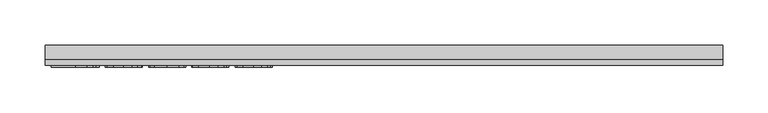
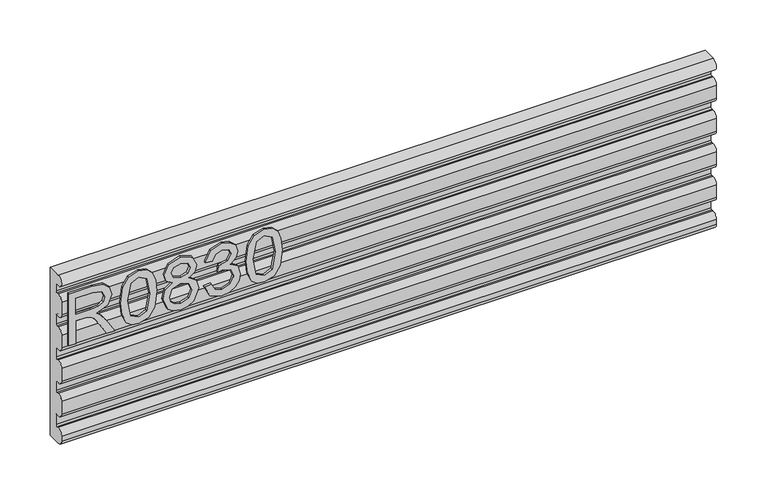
"""IFC4 building model written with IfcOpenShell, lengths in millimetres: furniture geometry."""

from ifc_helpers import new_model, si_unit, point, frame, frame_2d, origin, place, context, project, spatial, polyline, circle_curve, trimmed, segment, composite_curve, outline, extrude, source, transform, mapped, element, save


def furniture_d029c18f(model_context):
    return source(origin(), model_context, "Body", "SweptSolid", [
        extrude(outline(polyline([(882.65, -367.8115385), (882.65, -359.9961538), (910.0038462, -359.9961538), (910.0038462, -350.5627404), (909.7290865, -346.0292067), (908.2408053, -342.3123197), (904.188101, -338.1832933), (895.6094952, -332.3064904), (882.65, -324.1705529), (882.65, -315.0882212), (899.5935096, -325.5138221), (907.6378606, -331.8485577), (910.9807692, -336.2905048), (916.7965144, -323.201262), (928.0616587, -318.9653846), (937.5179688, -321.5221755), (943.4863582, -328.360637), (945.1730769, -340.8698317), (945.1730769, -367.8115385), (882.65, -367.8115385)]), holes=[polyline([(917.8192308, -359.9961538), (937.3576923, -359.9961538), (937.3576923, -340.5340144), (934.6558894, -330.0855168), (927.7716346, -326.7807692), (922.4672476, -328.5132812), (918.9259014, -333.5810697), (917.8192308, -342.503125), (917.8192308, -359.9961538)])]), frame((0.0, -24.60625, 0.0), z_axis=(0.0, 1.0, 0.0), x_axis=(0.0, 0.0, 1.0)), (0.0, 0.0, 1.0), 2.38125),
        extrude(outline(polyline([(913.4078125, -308.2192308), (898.200631, -306.6622596), (887.6262019, -301.9913462), (883.1613582, -295.8245192), (881.6730769, -287.7038462), (885.0999399, -276.2631611), (895.495012, -269.4628606), (913.4078125, -267.1884615), (928.0998197, -268.6080529), (937.3500601, -272.2715144), (943.1581731, -278.5757212), (945.1730769, -287.7038462), (941.7691106, -299.098738), (931.3969351, -305.9219351), (913.4078125, -308.2192308)]), holes=[polyline([(913.4230769, -300.4038462), (933.1752404, -296.6182692), (937.3576923, -287.7954327), (932.6104567, -278.5451923), (913.4230769, -275.0038462), (894.0296274, -278.6673077), (889.4884615, -287.7038462), (894.014363, -296.7403846), (913.4230769, -300.4038462)])]), frame((0.0, -24.60625, 0.0), z_axis=(0.0, 1.0, 0.0), x_axis=(0.0, 0.0, 1.0)), (0.0, 0.0, 1.0), 2.38125),
        extrude(outline(polyline([(917.0865385, -248.9627404), (911.4081731, -257.3887019), (901.0588942, -260.35), (887.2216947, -254.7021635), (883.0602314, -248.1613582), (881.6730769, -239.8346154), (883.0545072, -231.5078726), (887.1987981, -224.9670673), (900.8451923, -219.3192308), (910.9578726, -222.1660457), (917.0865385, -230.477524), (921.9177284, -223.5551082), (929.2828125, -221.2730769), (940.5479567, -226.4019231), (945.1730769, -239.9414663), (940.6548077, -253.3588942), (929.4965144, -258.3961538), (921.940625, -256.0835937), (917.0865385, -248.9627404)]), holes=[polyline([(901.3336538, -252.5346154), (909.6222356, -249.2298678), (912.9346154, -240.0330529), (909.5764423, -230.5691106), (901.0894231, -227.1346154), (892.7626803, -230.4622596), (889.4884615, -239.7735577), (891.0454327, -246.6120192), (895.4492188, -251.2295072), (901.3336538, -252.5346154)]), polyline([(929.2675481, -250.5807692), (934.9764423, -247.7644832), (937.3576923, -239.8346154), (934.9230168, -231.9276442), (928.9164663, -229.0884615), (923.1159856, -231.8360577), (920.75, -239.7430288), (923.13125, -247.8102764), (929.2675481, -250.5807692)])]), frame((0.0, -24.60625, 0.0), z_axis=(0.0, 1.0, 0.0), x_axis=(0.0, 0.0, 1.0)), (0.0, 0.0, 1.0), 2.38125),
        extrude(outline(polyline([(899.2576923, -212.4807692), (886.5729567, -206.268149), (881.6730769, -192.5606971), (883.1079327, -184.2072416), (887.4125, -177.4336538), (893.7777644, -172.9459135), (901.3947115, -171.45), (911.5608173, -174.4418269), (916.9033654, -182.959375), (922.0780048, -176.5483173), (929.2828125, -174.3807692), (937.166887, -176.6628005), (943.0284255, -183.2570312), (945.1730769, -192.6828125), (940.8227163, -205.1080529), (928.5653846, -211.5038462), (927.5884615, -203.6884615), (934.9153846, -199.8570913), (937.3576923, -192.4080529), (934.9382813, -185.050601), (928.8248798, -182.1961538), (921.9253606, -186.134375), (919.7730769, -196.2546875), (911.9576923, -197.1247596), (912.8125, -191.6448317), (909.6146034, -182.7609375), (901.5320913, -179.2653846), (892.9534856, -182.7914663), (889.4884615, -192.2859375), (892.0070913, -200.3531851), (900.2346154, -204.6653846), (899.2576923, -212.4807692)])), frame((0.0, -24.60625, 0.0), z_axis=(0.0, 1.0, 0.0), x_axis=(0.0, 0.0, 1.0)), (0.0, 0.0, 1.0), 2.38125),
        extrude(outline(polyline([(913.4078125, -164.6115385), (898.200631, -163.0545673), (887.6262019, -158.3836538), (883.1613582, -152.2168269), (881.6730769, -144.0961538), (885.0999399, -132.6554687), (895.495012, -125.8551683), (913.4078125, -123.5807692), (928.0998197, -125.0003606), (937.3500601, -128.6638221), (943.1581731, -134.9680288), (945.1730769, -144.0961538), (941.7691106, -155.4910457), (931.3969351, -162.3142428), (913.4078125, -164.6115385)]), holes=[polyline([(913.4230769, -156.7961538), (933.1752404, -153.0105769), (937.3576923, -144.1877404), (932.6104567, -134.9375), (913.4230769, -131.3961538), (894.0296274, -135.0596154), (889.4884615, -144.0961538), (894.014363, -153.1326923), (913.4230769, -156.7961538)])]), frame((0.0, -24.60625, 0.0), z_axis=(0.0, 1.0, 0.0), x_axis=(0.0, 0.0, 1.0)), (0.0, 0.0, 1.0), 2.38125),
        extrude(outline(composite_curve([segment(polyline([(-15.8760163, 965.1962603), (0.0, 965.1987579), (0.0, 762.0024959), (-15.875, 762.0024959)]), True, "CONTINUOUS"), segment(trimmed(circle_curve(frame_2d((-15.875, 768.3499997)), 6.3475038), [point((-15.875, 762.0024959))], [point((-22.2225037, 768.3499997))], False, "CARTESIAN"), True, "CONTINUOUS"), segment(polyline([(-22.2225037, 768.3499997), (-22.2225037, 774.1565144)]), True, "CONTINUOUS"), segment(trimmed(circle_curve(frame_2d((-15.8749436, 774.1565144)), 6.3475601), [point((-22.2225037, 774.1565144))], [point((-15.0857075, 780.4548178))], False, "CARTESIAN"), True, "CONTINUOUS"), segment(trimmed(circle_curve(frame_2d((-1.1337042, 863.6935017)), 84.3998631), [point((-15.0857075, 780.4548178))], [point((-12.9059563, 780.1186791))], True, "CARTESIAN"), True, "CONTINUOUS"), segment(trimmed(circle_curve(frame_2d((-12.700446, 781.6924586)), 1.5871409), [point((-12.9059563, 780.1186791))], [point((-11.1133051, 781.6924586))], True, "CARTESIAN"), True, "CONTINUOUS"), segment(polyline([(-11.1133051, 781.6924586), (-11.1133051, 793.7069593)]), True, "CONTINUOUS"), segment(trimmed(circle_curve(frame_2d((-12.6993283, 793.7069593)), 1.5860232), [point((-11.1133051, 793.7069593))], [point((-12.9060069, 795.2794584))], True, "CARTESIAN"), True, "CONTINUOUS"), segment(trimmed(circle_curve(frame_2d((-1.1352938, 711.7058353)), 84.3984607), [point((-12.9060069, 795.2794584))], [point((-15.0903111, 794.942592))], True, "CARTESIAN"), True, "CONTINUOUS"), segment(trimmed(circle_curve(frame_2d((-15.8834296, 801.2469395)), 6.3540408), [point((-15.0903111, 794.942592))], [point((-22.225, 800.8490464))], False, "CARTESIAN"), True, "CONTINUOUS"), segment(polyline([(-22.225, 800.8490464), (-22.225, 816.2587238)]), True, "CONTINUOUS"), segment(trimmed(circle_curve(frame_2d((-15.8833926, 815.8608997)), 6.3540734), [point((-22.225, 816.2587238))], [point((-15.0903341, 822.1652876))], False, "CARTESIAN"), True, "CONTINUOUS"), segment(trimmed(circle_curve(frame_2d((-1.1353844, 905.4020955)), 84.3985), [point((-15.0903341, 822.1652876))], [point((-12.9062753, 821.8284577))], True, "CARTESIAN"), True, "CONTINUOUS"), segment(trimmed(circle_curve(frame_2d((-12.6998122, 823.4006216)), 1.5856628), [point((-12.9062753, 821.8284577))], [point((-11.1141494, 823.4006216))], True, "CARTESIAN"), True, "CONTINUOUS"), segment(polyline([(-11.1141494, 823.4006216), (-11.1141494, 833.7966127)]), True, "CONTINUOUS"), segment(trimmed(circle_curve(frame_2d((-12.6998093, 833.7966127)), 1.5856599), [point((-11.1141494, 833.7966127))], [point((-12.9062754, 835.3687733))], True, "CARTESIAN"), True, "CONTINUOUS"), segment(trimmed(circle_curve(frame_2d((-1.1353888, 751.7951397)), 84.3984953), [point((-12.9062754, 835.3687733))], [point((-15.0903465, 835.0319415))], True, "CARTESIAN"), True, "CONTINUOUS"), segment(trimmed(circle_curve(frame_2d((-15.8834158, 841.3363673)), 6.3541124), [point((-15.0903465, 835.0319415))], [point((-22.2250421, 840.9382203))], False, "CARTESIAN"), True, "CONTINUOUS"), segment(polyline([(-22.2250421, 840.9382203), (-22.2250421, 856.3483319)]), True, "CONTINUOUS"), segment(trimmed(circle_curve(frame_2d((-15.8834158, 855.9501848)), 6.3541124), [point((-22.2250421, 856.3483319))], [point((-15.0903468, 862.2546107))], False, "CARTESIAN"), True, "CONTINUOUS"), segment(trimmed(circle_curve(frame_2d((-1.1353891, 945.4914132)), 84.398496), [point((-15.0903468, 862.2546107))], [point((-12.9062764, 861.9177789))], True, "CARTESIAN"), True, "CONTINUOUS"), segment(trimmed(circle_curve(frame_2d((-12.6998106, 863.4899388)), 1.5856591), [point((-12.9062764, 861.9177789))], [point((-11.1141515, 863.4899388))], True, "CARTESIAN"), True, "CONTINUOUS"), segment(polyline([(-11.1141515, 863.4899388), (-11.1141515, 873.8860943)]), True, "CONTINUOUS"), segment(trimmed(circle_curve(frame_2d((-12.6998106, 873.8860943)), 1.5856591), [point((-11.1141515, 873.8860943))], [point((-12.9062762, 875.4582542))], True, "CARTESIAN"), True, "CONTINUOUS"), segment(trimmed(circle_curve(frame_2d((-1.135389, 791.8846199)), 84.398496), [point((-12.9062762, 875.4582542))], [point((-15.0903467, 875.1214224))], True, "CARTESIAN"), True, "CONTINUOUS"), segment(trimmed(circle_curve(frame_2d((-15.8834159, 881.4258482)), 6.3541123), [point((-15.0903467, 875.1214224))], [point((-22.225042, 881.0277013))], False, "CARTESIAN"), True, "CONTINUOUS"), segment(polyline([(-22.225042, 881.0277013), (-22.225042, 896.4379807)]), True, "CONTINUOUS"), segment(trimmed(circle_curve(frame_2d((-15.8834159, 896.0398338)), 6.3541123), [point((-22.225042, 896.4379807))], [point((-15.0903468, 902.3442596))], False, "CARTESIAN"), True, "CONTINUOUS"), segment(trimmed(circle_curve(frame_2d((-1.1353891, 985.5810621)), 84.3984961), [point((-15.0903468, 902.3442596))], [point((-12.9062764, 902.0074278))], True, "CARTESIAN"), True, "CONTINUOUS"), segment(trimmed(circle_curve(frame_2d((-12.6998107, 903.5795876)), 1.585659), [point((-12.9062764, 902.0074278))], [point((-11.1141517, 903.5795876))], True, "CARTESIAN"), True, "CONTINUOUS"), segment(polyline([(-11.1141517, 903.5795876), (-11.1141517, 913.9755748)]), True, "CONTINUOUS"), segment(trimmed(circle_curve(frame_2d((-12.6998103, 913.9755748)), 1.5856586), [point((-11.1141517, 913.9755748))], [point((-12.906276, 915.5477342))], True, "CARTESIAN"), True, "CONTINUOUS"), segment(trimmed(circle_curve(frame_2d((-1.1353891, 831.9741004)), 84.3984955), [point((-12.906276, 915.5477342))], [point((-15.0903471, 915.2109023))], True, "CARTESIAN"), True, "CONTINUOUS"), segment(trimmed(circle_curve(frame_2d((-15.8834165, 921.5153276)), 6.3541119), [point((-15.0903471, 915.2109023))], [point((-22.225042, 921.1171779))], False, "CARTESIAN"), True, "CONTINUOUS"), segment(polyline([(-22.225042, 921.1171779), (-22.225042, 936.5272397)]), True, "CONTINUOUS"), segment(trimmed(circle_curve(frame_2d((-15.8834716, 936.1290423)), 6.3540599), [point((-22.225042, 936.5272397))], [point((-15.090343, 942.4334077))], False, "CARTESIAN"), True, "CONTINUOUS"), segment(trimmed(circle_curve(frame_2d((-1.1352996, 1025.6702803)), 84.3985793), [point((-15.090343, 942.4334077))], [point((-12.9060294, 942.0965398))], True, "CARTESIAN"), True, "CONTINUOUS"), segment(trimmed(circle_curve(frame_2d((-12.6993505, 943.6690306)), 1.5860151), [point((-12.9060294, 942.0965398))], [point((-11.1133354, 943.6690306))], True, "CARTESIAN"), True, "CONTINUOUS"), segment(polyline([(-11.1133354, 943.6690306), (-11.1133354, 951.3150339)]), True, "CONTINUOUS"), segment(trimmed(circle_curve(frame_2d((-12.7004555, 951.3150339)), 1.5871201), [point((-11.1133354, 951.3150339))], [point((-12.9059726, 952.8887915))], True, "CARTESIAN"), True, "CONTINUOUS"), segment(trimmed(circle_curve(frame_2d((-1.1337141, 869.3138651)), 84.3999668), [point((-12.9059726, 952.8887915))], [point((-15.0857569, 952.5526475))], True, "CARTESIAN"), True, "CONTINUOUS"), segment(trimmed(circle_curve(frame_2d((-15.8750176, 958.8498197)), 6.3464407), [point((-15.0857569, 952.5526475))], [point((-15.8760163, 965.1962603))], False, "CARTESIAN"), True, "CONTINUOUS")], self_intersect=False)), frame((-374.65, 0.0, 0.0), z_axis=(1.0, 0.0, 0.0), x_axis=(0.0, 1.0, 0.0)), (0.0, 0.0, 1.0), 749.3),
    ])


if __name__ == "__main__":
    model = new_model("IFC4")
    model_context = context("Model", 3, world=origin())
    ifc_project = project(units=[si_unit("LENGTHUNIT", "METRE", prefix="MILLI")], contexts=[model_context])
    site = spatial("IfcSite", under=ifc_project)
    building = spatial("IfcBuilding", under=site)
    placement = place(None, origin())
    furniture_shape = furniture_d029c18f(model_context)
    element("IfcFurniture", 1, ObjectType="HermanMiller_Ethospace_E1425_RailTile : 08\"H x 30\"W", at=placement, inside=building, context=model_context, shape_type="MappedRepresentation", body=[
        mapped(furniture_shape, transform((0.0, 0.0, 0.0), x_axis=(1.0, 0.0, 0.0), y_axis=(0.0, 1.0, 0.0), z_axis=(0.0, 0.0, 1.0))),
    ])
    save(model, "model.ifc")
